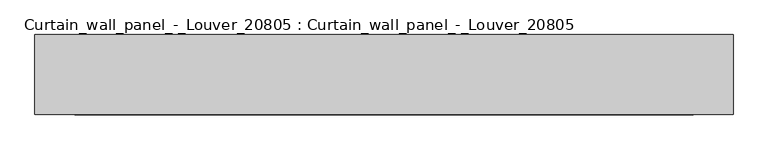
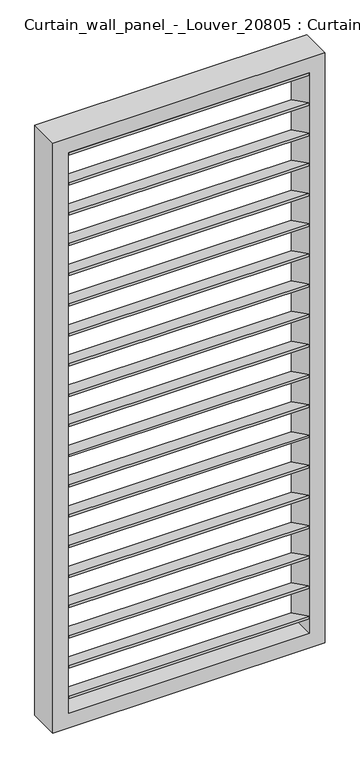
"""IFC4 building model written with IfcOpenShell, lengths in millimetres: plate geometry, Curtain_wall_panel_-_Louver_20805 : Curtain_wall_panel_-_Louver_20805."""

from ifc_helpers import new_model, si_unit, frame, origin, place, context, project, spatial, polyline, outline, extrude, source, transform, mapped, element, save


def curtain_wall_panel_louver_20805_curtain_wall_panel_louver_6bef742d(model_context):
    return source(origin(), model_context, "Body", "SweptSolid", [
        extrude(outline(polyline([(-200.0, 3678.5908966), (-200.0, 3695.3408295), (0.0, 3595.9558314), (0.0, 3579.2058986), (-200.0, 3678.5908966)])), frame((-773.2383792, 0.0, 0.0), z_axis=(1.0, 0.0, 0.0), x_axis=(0.0, 1.0, 0.0)), (0.0, 0.0, 1.0), 1546.4767585),
        extrude(outline(polyline([(-200.0, 3473.9317261), (-200.0, 3490.681659), (0.0, 3391.2966609), (0.0, 3374.546728), (-200.0, 3473.9317261)])), frame((-773.2383792, 0.0, 0.0), z_axis=(1.0, 0.0, 0.0), x_axis=(0.0, 1.0, 0.0)), (0.0, 0.0, 1.0), 1546.4767585),
        extrude(outline(polyline([(-200.0, 3269.2725556), (-200.0, 3286.0224885), (0.0, 3186.6374904), (0.0, 3169.8875575), (-200.0, 3269.2725556)])), frame((-773.2383792, 0.0, 0.0), z_axis=(1.0, 0.0, 0.0), x_axis=(0.0, 1.0, 0.0)), (0.0, 0.0, 1.0), 1546.4767585),
        extrude(outline(polyline([(-200.0, 3064.6133851), (-200.0, 3081.363318), (0.0, 2981.9783199), (0.0, 2965.228387), (-200.0, 3064.6133851)])), frame((-773.2383792, 0.0, 0.0), z_axis=(1.0, 0.0, 0.0), x_axis=(0.0, 1.0, 0.0)), (0.0, 0.0, 1.0), 1546.4767585),
        extrude(outline(polyline([(-200.0, 2859.9542146), (-200.0, 2876.7041475), (0.0, 2777.3191494), (0.0, 2760.5692165), (-200.0, 2859.9542146)])), frame((-773.2383792, 0.0, 0.0), z_axis=(1.0, 0.0, 0.0), x_axis=(0.0, 1.0, 0.0)), (0.0, 0.0, 1.0), 1546.4767585),
        extrude(outline(polyline([(-200.0, 2655.2950441), (-200.0, 2672.044977), (0.0, 2572.6599789), (0.0, 2555.910046), (-200.0, 2655.2950441)])), frame((-773.2383792, 0.0, 0.0), z_axis=(1.0, 0.0, 0.0), x_axis=(0.0, 1.0, 0.0)), (0.0, 0.0, 1.0), 1546.4767585),
        extrude(outline(polyline([(-200.0, 2450.6358736), (-200.0, 2467.3858065), (0.0, 2368.0008084), (0.0, 2351.2508755), (-200.0, 2450.6358736)])), frame((-773.2383792, 0.0, 0.0), z_axis=(1.0, 0.0, 0.0), x_axis=(0.0, 1.0, 0.0)), (0.0, 0.0, 1.0), 1546.4767585),
        extrude(outline(polyline([(-200.0, 2245.9767031), (-200.0, 2262.726636), (0.0, 2163.3416379), (0.0, 2146.591705), (-200.0, 2245.9767031)])), frame((-773.2383792, 0.0, 0.0), z_axis=(1.0, 0.0, 0.0), x_axis=(0.0, 1.0, 0.0)), (0.0, 0.0, 1.0), 1546.4767585),
        extrude(outline(polyline([(-200.0, 2041.3175326), (-200.0, 2058.0674655), (0.0, 1958.6824674), (0.0, 1941.9325345), (-200.0, 2041.3175326)])), frame((-773.2383792, 0.0, 0.0), z_axis=(1.0, 0.0, 0.0), x_axis=(0.0, 1.0, 0.0)), (0.0, 0.0, 1.0), 1546.4767585),
        extrude(outline(polyline([(-200.0, 1836.6583621), (-200.0, 1853.408295), (0.0, 1754.0232969), (0.0, 1737.273364), (-200.0, 1836.6583621)])), frame((-773.2383792, 0.0, 0.0), z_axis=(1.0, 0.0, 0.0), x_axis=(0.0, 1.0, 0.0)), (0.0, 0.0, 1.0), 1546.4767585),
        extrude(outline(polyline([(-200.0, 1631.9991916), (-200.0, 1648.7491245), (0.0, 1549.3641264), (0.0, 1532.6141935), (-200.0, 1631.9991916)])), frame((-773.2383792, 0.0, 0.0), z_axis=(1.0, 0.0, 0.0), x_axis=(0.0, 1.0, 0.0)), (0.0, 0.0, 1.0), 1546.4767585),
        extrude(outline(polyline([(-200.0, 1427.3400211), (-200.0, 1444.089954), (0.0, 1344.7049559), (0.0, 1327.955023), (-200.0, 1427.3400211)])), frame((-773.2383792, 0.0, 0.0), z_axis=(1.0, 0.0, 0.0), x_axis=(0.0, 1.0, 0.0)), (0.0, 0.0, 1.0), 1546.4767585),
        extrude(outline(polyline([(-200.0, 1222.6808506), (-200.0, 1239.4307835), (0.0, 1140.0457854), (0.0, 1123.2958525), (-200.0, 1222.6808506)])), frame((-773.2383792, 0.0, 0.0), z_axis=(1.0, 0.0, 0.0), x_axis=(0.0, 1.0, 0.0)), (0.0, 0.0, 1.0), 1546.4767585),
        extrude(outline(polyline([(-200.0, 1018.0216801), (-200.0, 1034.771613), (0.0, 935.3866149), (0.0, 918.636682), (-200.0, 1018.0216801)])), frame((-773.2383792, 0.0, 0.0), z_axis=(1.0, 0.0, 0.0), x_axis=(0.0, 1.0, 0.0)), (0.0, 0.0, 1.0), 1546.4767585),
        extrude(outline(polyline([(-200.0, 813.3625096), (-200.0, 830.1124425), (0.0, 730.7274444), (0.0, 713.9775115), (-200.0, 813.3625096)])), frame((-773.2383792, 0.0, 0.0), z_axis=(1.0, 0.0, 0.0), x_axis=(0.0, 1.0, 0.0)), (0.0, 0.0, 1.0), 1546.4767585),
        extrude(outline(polyline([(-200.0, 608.7033391), (-200.0, 625.453272), (0.0, 526.0682739), (0.0, 509.318341), (-200.0, 608.7033391)])), frame((-773.2383792, 0.0, 0.0), z_axis=(1.0, 0.0, 0.0), x_axis=(0.0, 1.0, 0.0)), (0.0, 0.0, 1.0), 1546.4767585),
        extrude(outline(polyline([(-200.0, 404.0441686), (-200.0, 420.7941014), (0.0, 321.4091034), (0.0, 304.6591705), (-200.0, 404.0441686)])), frame((-773.2383792, 0.0, 0.0), z_axis=(1.0, 0.0, 0.0), x_axis=(0.0, 1.0, 0.0)), (0.0, 0.0, 1.0), 1546.4767585),
        extrude(outline(polyline([(-200.0, 3883.2500672), (-200.0, 3900.0), (0.0, 3800.6150019), (0.0, 3783.8650691), (-200.0, 3883.2500672)])), frame((-773.2383792, 0.0, 0.0), z_axis=(1.0, 0.0, 0.0), x_axis=(0.0, 1.0, 0.0)), (0.0, 0.0, 1.0), 1546.4767585),
        extrude(outline(polyline([(-200.0, 199.3849981), (-200.0, 216.1349309), (0.0, 116.7499328), (0.0, 100.0), (-200.0, 199.3849981)])), frame((-773.2383792, 0.0, 0.0), z_axis=(1.0, 0.0, 0.0), x_axis=(0.0, 1.0, 0.0)), (0.0, 0.0, 1.0), 1546.4767585),
        extrude(outline(polyline([(4000.0, -873.2383792), (0.0, -873.2383792), (0.0, 873.2383792), (4000.0, 873.2383792), (4000.0, -873.2383792)]), holes=[polyline([(3900.0, -773.2383792), (3900.0, 773.2383792), (100.0, 773.2383792), (100.0, -773.2383792), (3900.0, -773.2383792)])]), frame((0.0, -200.0, 0.0), z_axis=(0.0, 1.0, 0.0), x_axis=(0.0, 0.0, 1.0)), (0.0, 0.0, 1.0), 200.0),
    ])


if __name__ == "__main__":
    model = new_model("IFC4")
    model_context = context("Model", 3, world=origin())
    ifc_project = project(units=[si_unit("LENGTHUNIT", "METRE", prefix="MILLI")], contexts=[model_context])
    site = spatial("IfcSite", under=ifc_project)
    building = spatial("IfcBuilding", under=site)
    placement = place(None, origin())
    curtain_wall_panel_louver_20805_curtain_wall_panel_louver_shape = curtain_wall_panel_louver_20805_curtain_wall_panel_louver_6bef742d(model_context)
    element("IfcPlate", 1, ObjectType="Curtain_wall_panel_-_Louver_20805 : Curtain_wall_panel_-_Louver_20805", at=placement, inside=building, context=model_context, shape_type="MappedRepresentation", body=[
        mapped(curtain_wall_panel_louver_20805_curtain_wall_panel_louver_shape, transform((0.0, 0.0, 0.0), x_axis=(1.0, 0.0, 0.0), y_axis=(0.0, 1.0, 0.0), z_axis=(0.0, 0.0, 1.0))),
    ])
    save(model, "model.ifc")
